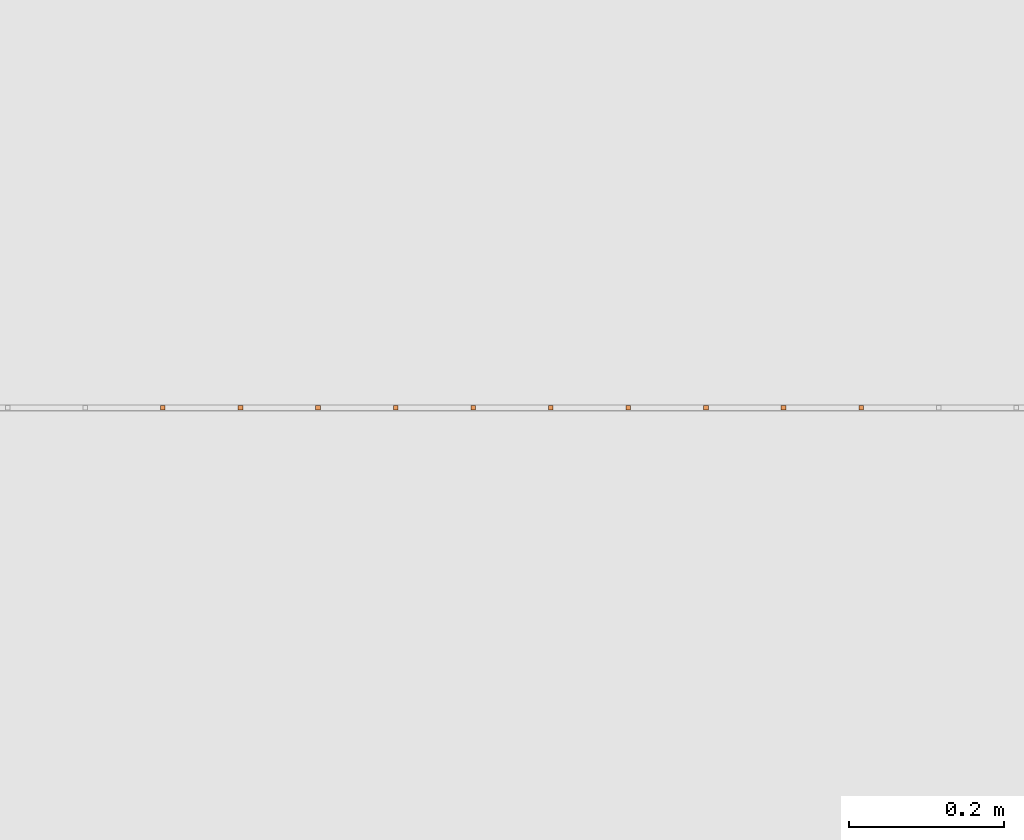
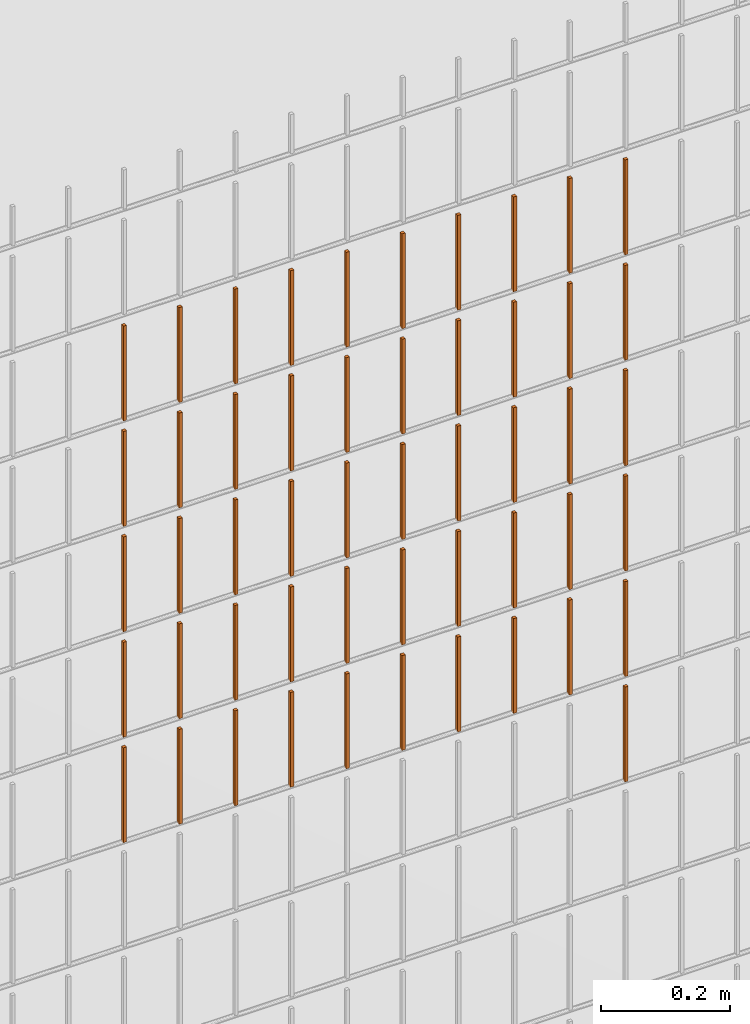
# One storey, part 240 of 1809: 51 proxies, 1 element without a shape of its own.
"""IFC2X3 building model written with IfcOpenShell, lengths in millimetres."""

from ifc_helpers import new_model, entity, si_unit, converted_unit, derived_unit, money_unit, direction, frame, origin_with_axes, place, context, subcontext, project, spatial, faceted_brep, source, transform, mapped, material, type_object, element, aggregate, save


model = new_model("IFC2X3")

# Units and contexts
model_context = context("Model", 3, precision=0.01, world=origin_with_axes(), true_north=direction((0.0, 1.0)))
body_context = subcontext(model_context, "Body", "Model", "MODEL_VIEW")
ifc_project = project(units=[si_unit("LENGTHUNIT", "METRE", prefix="MILLI"), si_unit("AREAUNIT", "SQUARE_METRE"), si_unit("VOLUMEUNIT", "CUBIC_METRE"), converted_unit("PLANEANGLEUNIT", "DEGREE", entity("IfcPlaneAngleMeasure", 0.0174532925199), si_unit("PLANEANGLEUNIT", "RADIAN"), dimensions=[0, 0, 0, 0, 0, 0, 0]), si_unit("SOLIDANGLEUNIT", "STERADIAN"), money_unit("EUR"), converted_unit("TIMEUNIT", "Year", entity("IfcTimeMeasure", 31556926.0), si_unit("TIMEUNIT", "SECOND"), dimensions=[0, 0, 1, 0, 0, 0, 0]), si_unit("MASSUNIT", "GRAM", prefix="KILO"), si_unit("THERMODYNAMICTEMPERATUREUNIT", "DEGREE_CELSIUS"), si_unit("LUMINOUSINTENSITYUNIT", "LUMEN"), si_unit("ENERGYUNIT", "JOULE", prefix="MEGA"), derived_unit("THERMALCONDUCTANCEUNIT", [(si_unit("POWERUNIT", "WATT"), 1), (si_unit("LENGTHUNIT", "METRE"), -1), (si_unit("THERMODYNAMICTEMPERATUREUNIT", "KELVIN"), -1)]), derived_unit("SPECIFICHEATCAPACITYUNIT", [(si_unit("ENERGYUNIT", "JOULE"), 1), (si_unit("MASSUNIT", "GRAM", prefix="KILO"), -1), (si_unit("THERMODYNAMICTEMPERATUREUNIT", "KELVIN"), -1)]), derived_unit("MASSDENSITYUNIT", [(si_unit("MASSUNIT", "GRAM", prefix="KILO"), 1), (si_unit("VOLUMEUNIT", "CUBIC_METRE"), -1)])], contexts=[model_context])

# Site, building, storey
site_placement = place(None, origin_with_axes())
site = spatial("IfcSite", under=ifc_project, at=site_placement, Name="Politse- ja Piirivalveameti ning Päästeameti ühishoone", CompositionType="ELEMENT")
building_placement = place(site_placement, origin_with_axes())
building = spatial("IfcBuilding", under=site, at=building_placement, Name="Politse- ja Piirivalveameti ning Päästeameti ühishoone", CompositionType="ELEMENT")
storey_placement = place(building_placement, origin_with_axes())
storey = spatial("IfcBuildingStorey", under=building, at=storey_placement, Name="Esimene korrus", CompositionType="ELEMENT", Elevation=0.0)

# Proxies
building_element_proxy_type_1 = type_object("IfcBuildingElementProxyType", Name="Railing Type", PredefinedType="NOTDEFINED")
proxy_1_placement = place(storey_placement, frame((-16775.8601056, 25156.7555964, 0.0), z_axis=(0.0, 0.0, 1.0), x_axis=(1.0, 0.0, 0.0)))
proxy_1 = element("IfcBuildingElementProxy", 1, at=proxy_1_placement, inside=storey, type_object=building_element_proxy_type_1, Name="KENNELI PIIRE")
ifc_material = material(Name="Teras - Konstruktsioon")
building_element_proxy_type_2 = type_object("IfcBuildingElementProxyType", Name="IfcBuildingElementProxy", PredefinedType="NOTDEFINED")
shared_shape_1 = source(origin_with_axes(), body_context, "Body", "Brep", [
    faceted_brep([(3.0, 3.0, 0.0), (-3.0, 3.0, 0.0), (-3.0, 3.0, 180.000012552), (3.0, 3.0, 180.000012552), (3.0, -3.0, 0.0), (-3.0, -3.0, 0.0), (-3.0, -3.0, 180.000012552), (3.0, -3.0, 180.000012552)], [[[0, 1, 2, 3]], [[0, 4, 5, 1]], [[1, 5, 6, 2]], [[3, 2, 6, 7]], [[4, 0, 3, 7]], [[5, 4, 7, 6]]]),
])
proxy_2_placement = place(proxy_1_placement, frame((-3182.26655065, -16068.8402798, 1003.99998745), z_axis=(0.0, 0.0, 1.0), x_axis=(1.0, 0.0, 0.0)))
proxy_2 = element("IfcBuildingElementProxy", 2, at=proxy_2_placement, type_object=building_element_proxy_type_2, material=ifc_material, Name="BALUSTER - 001", context=body_context, shape_type="MappedRepresentation", body=[
    mapped(shared_shape_1, transform((0.0, 0.0, 0.0), x_axis=(0.0, -1.0, 0.0), y_axis=(1.0, 0.0, 0.0), z_axis=(0.0, 0.0, 1.0))),
])
shared_shape_2 = source(origin_with_axes(), body_context, "Body", "Brep", [
    faceted_brep([(3.0, 3.0, 0.0), (-3.0, 3.0, 0.0), (-3.0, 3.0, 180.000012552), (3.0, 3.0, 180.000012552), (3.0, -3.0, 0.0), (-3.0, -3.0, 0.0), (-3.0, -3.0, 180.000012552), (3.0, -3.0, 180.000012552)], [[[0, 1, 2, 3]], [[0, 4, 5, 1]], [[1, 5, 6, 2]], [[3, 2, 6, 7]], [[4, 0, 3, 7]], [[5, 4, 7, 6]]]),
])
proxy_3_placement = place(proxy_1_placement, frame((-4082.26655065, -16068.8402798, 1403.99998745), z_axis=(0.0, 0.0, 1.0), x_axis=(1.0, 0.0, 0.0)))
proxy_3 = element("IfcBuildingElementProxy", 3, at=proxy_3_placement, type_object=building_element_proxy_type_2, material=ifc_material, Name="BALUSTER - 001", context=body_context, shape_type="MappedRepresentation", body=[
    mapped(shared_shape_2, transform((0.0, 0.0, 0.0), x_axis=(0.0, -1.0, 0.0), y_axis=(1.0, 0.0, 0.0), z_axis=(0.0, 0.0, 1.0))),
])
proxy_4_placement = place(proxy_1_placement, frame((-3982.26655065, -16068.8402798, 1403.99998745), z_axis=(0.0, 0.0, 1.0), x_axis=(1.0, 0.0, 0.0)))
proxy_4 = element("IfcBuildingElementProxy", 4, at=proxy_4_placement, type_object=building_element_proxy_type_2, material=ifc_material, Name="BALUSTER - 001", context=body_context, shape_type="MappedRepresentation", body=[
    mapped(shared_shape_2, transform((0.0, 0.0, 0.0), x_axis=(0.0, -1.0, 0.0), y_axis=(1.0, 0.0, 0.0), z_axis=(0.0, 0.0, 1.0))),
])
proxy_5_placement = place(proxy_1_placement, frame((-3882.26655065, -16068.8402798, 1403.99998745), z_axis=(0.0, 0.0, 1.0), x_axis=(1.0, 0.0, 0.0)))
proxy_5 = element("IfcBuildingElementProxy", 5, at=proxy_5_placement, type_object=building_element_proxy_type_2, material=ifc_material, Name="BALUSTER - 001", context=body_context, shape_type="MappedRepresentation", body=[
    mapped(shared_shape_2, transform((0.0, 0.0, 0.0), x_axis=(0.0, -1.0, 0.0), y_axis=(1.0, 0.0, 0.0), z_axis=(0.0, 0.0, 1.0))),
])
proxy_6_placement = place(proxy_1_placement, frame((-3782.26655065, -16068.8402798, 1403.99998745), z_axis=(0.0, 0.0, 1.0), x_axis=(1.0, 0.0, 0.0)))
proxy_6 = element("IfcBuildingElementProxy", 6, at=proxy_6_placement, type_object=building_element_proxy_type_2, material=ifc_material, Name="BALUSTER - 001", context=body_context, shape_type="MappedRepresentation", body=[
    mapped(shared_shape_2, transform((0.0, 0.0, 0.0), x_axis=(0.0, -1.0, 0.0), y_axis=(1.0, 0.0, 0.0), z_axis=(0.0, 0.0, 1.0))),
])
proxy_7_placement = place(proxy_1_placement, frame((-3682.26655065, -16068.8402798, 1403.99998745), z_axis=(0.0, 0.0, 1.0), x_axis=(1.0, 0.0, 0.0)))
proxy_7 = element("IfcBuildingElementProxy", 7, at=proxy_7_placement, type_object=building_element_proxy_type_2, material=ifc_material, Name="BALUSTER - 001", context=body_context, shape_type="MappedRepresentation", body=[
    mapped(shared_shape_2, transform((0.0, 0.0, 0.0), x_axis=(0.0, -1.0, 0.0), y_axis=(1.0, 0.0, 0.0), z_axis=(0.0, 0.0, 1.0))),
])
proxy_8_placement = place(proxy_1_placement, frame((-3582.26655065, -16068.8402798, 1403.99998745), z_axis=(0.0, 0.0, 1.0), x_axis=(1.0, 0.0, 0.0)))
proxy_8 = element("IfcBuildingElementProxy", 8, at=proxy_8_placement, type_object=building_element_proxy_type_2, material=ifc_material, Name="BALUSTER - 001", context=body_context, shape_type="MappedRepresentation", body=[
    mapped(shared_shape_2, transform((0.0, 0.0, 0.0), x_axis=(0.0, -1.0, 0.0), y_axis=(1.0, 0.0, 0.0), z_axis=(0.0, 0.0, 1.0))),
])
proxy_9_placement = place(proxy_1_placement, frame((-3482.26655065, -16068.8402798, 1403.99998745), z_axis=(0.0, 0.0, 1.0), x_axis=(1.0, 0.0, 0.0)))
proxy_9 = element("IfcBuildingElementProxy", 9, at=proxy_9_placement, type_object=building_element_proxy_type_2, material=ifc_material, Name="BALUSTER - 001", context=body_context, shape_type="MappedRepresentation", body=[
    mapped(shared_shape_2, transform((0.0, 0.0, 0.0), x_axis=(0.0, -1.0, 0.0), y_axis=(1.0, 0.0, 0.0), z_axis=(0.0, 0.0, 1.0))),
])
proxy_10_placement = place(proxy_1_placement, frame((-3382.26655065, -16068.8402798, 1403.99998745), z_axis=(0.0, 0.0, 1.0), x_axis=(1.0, 0.0, 0.0)))
proxy_10 = element("IfcBuildingElementProxy", 10, at=proxy_10_placement, type_object=building_element_proxy_type_2, material=ifc_material, Name="BALUSTER - 001", context=body_context, shape_type="MappedRepresentation", body=[
    mapped(shared_shape_2, transform((0.0, 0.0, 0.0), x_axis=(0.0, -1.0, 0.0), y_axis=(1.0, 0.0, 0.0), z_axis=(0.0, 0.0, 1.0))),
])
proxy_11_placement = place(proxy_1_placement, frame((-3282.26655065, -16068.8402798, 1403.99998745), z_axis=(0.0, 0.0, 1.0), x_axis=(1.0, 0.0, 0.0)))
proxy_11 = element("IfcBuildingElementProxy", 11, at=proxy_11_placement, type_object=building_element_proxy_type_2, material=ifc_material, Name="BALUSTER - 001", context=body_context, shape_type="MappedRepresentation", body=[
    mapped(shared_shape_2, transform((0.0, 0.0, 0.0), x_axis=(0.0, -1.0, 0.0), y_axis=(1.0, 0.0, 0.0), z_axis=(0.0, 0.0, 1.0))),
])
proxy_12_placement = place(proxy_1_placement, frame((-3182.26655065, -16068.8402798, 1403.99998745), z_axis=(0.0, 0.0, 1.0), x_axis=(1.0, 0.0, 0.0)))
proxy_12 = element("IfcBuildingElementProxy", 12, at=proxy_12_placement, type_object=building_element_proxy_type_2, material=ifc_material, Name="BALUSTER - 001", context=body_context, shape_type="MappedRepresentation", body=[
    mapped(shared_shape_2, transform((0.0, 0.0, 0.0), x_axis=(0.0, -1.0, 0.0), y_axis=(1.0, 0.0, 0.0), z_axis=(0.0, 0.0, 1.0))),
])
shared_shape_3 = source(origin_with_axes(), body_context, "Body", "Brep", [
    faceted_brep([(3.0, 3.0, 0.0), (-3.0, 3.0, 0.0), (-3.0, 3.0, 180.000012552), (3.0, 3.0, 180.000012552), (3.0, -3.0, 0.0), (-3.0, -3.0, 0.0), (-3.0, -3.0, 180.000012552), (3.0, -3.0, 180.000012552)], [[[0, 1, 2, 3]], [[0, 4, 5, 1]], [[1, 5, 6, 2]], [[3, 2, 6, 7]], [[4, 0, 3, 7]], [[5, 4, 7, 6]]]),
])
proxy_13_placement = place(proxy_1_placement, frame((-4082.26655065, -16068.8402798, 1803.99998745), z_axis=(0.0, 0.0, 1.0), x_axis=(1.0, 0.0, 0.0)))
proxy_13 = element("IfcBuildingElementProxy", 13, at=proxy_13_placement, type_object=building_element_proxy_type_2, material=ifc_material, Name="BALUSTER - 001", context=body_context, shape_type="MappedRepresentation", body=[
    mapped(shared_shape_3, transform((0.0, 0.0, 0.0), x_axis=(0.0, -1.0, 0.0), y_axis=(1.0, 0.0, 0.0), z_axis=(0.0, 0.0, 1.0))),
])
proxy_14_placement = place(proxy_1_placement, frame((-3982.26655065, -16068.8402798, 1803.99998745), z_axis=(0.0, 0.0, 1.0), x_axis=(1.0, 0.0, 0.0)))
proxy_14 = element("IfcBuildingElementProxy", 14, at=proxy_14_placement, type_object=building_element_proxy_type_2, material=ifc_material, Name="BALUSTER - 001", context=body_context, shape_type="MappedRepresentation", body=[
    mapped(shared_shape_3, transform((0.0, 0.0, 0.0), x_axis=(0.0, -1.0, 0.0), y_axis=(1.0, 0.0, 0.0), z_axis=(0.0, 0.0, 1.0))),
])
proxy_15_placement = place(proxy_1_placement, frame((-3882.26655065, -16068.8402798, 1803.99998745), z_axis=(0.0, 0.0, 1.0), x_axis=(1.0, 0.0, 0.0)))
proxy_15 = element("IfcBuildingElementProxy", 15, at=proxy_15_placement, type_object=building_element_proxy_type_2, material=ifc_material, Name="BALUSTER - 001", context=body_context, shape_type="MappedRepresentation", body=[
    mapped(shared_shape_3, transform((0.0, 0.0, 0.0), x_axis=(0.0, -1.0, 0.0), y_axis=(1.0, 0.0, 0.0), z_axis=(0.0, 0.0, 1.0))),
])
proxy_16_placement = place(proxy_1_placement, frame((-3782.26655065, -16068.8402798, 1803.99998745), z_axis=(0.0, 0.0, 1.0), x_axis=(1.0, 0.0, 0.0)))
proxy_16 = element("IfcBuildingElementProxy", 16, at=proxy_16_placement, type_object=building_element_proxy_type_2, material=ifc_material, Name="BALUSTER - 001", context=body_context, shape_type="MappedRepresentation", body=[
    mapped(shared_shape_3, transform((0.0, 0.0, 0.0), x_axis=(0.0, -1.0, 0.0), y_axis=(1.0, 0.0, 0.0), z_axis=(0.0, 0.0, 1.0))),
])
proxy_17_placement = place(proxy_1_placement, frame((-3682.26655065, -16068.8402798, 1803.99998745), z_axis=(0.0, 0.0, 1.0), x_axis=(1.0, 0.0, 0.0)))
proxy_17 = element("IfcBuildingElementProxy", 17, at=proxy_17_placement, type_object=building_element_proxy_type_2, material=ifc_material, Name="BALUSTER - 001", context=body_context, shape_type="MappedRepresentation", body=[
    mapped(shared_shape_3, transform((0.0, 0.0, 0.0), x_axis=(0.0, -1.0, 0.0), y_axis=(1.0, 0.0, 0.0), z_axis=(0.0, 0.0, 1.0))),
])
proxy_18_placement = place(proxy_1_placement, frame((-3582.26655065, -16068.8402798, 1803.99998745), z_axis=(0.0, 0.0, 1.0), x_axis=(1.0, 0.0, 0.0)))
proxy_18 = element("IfcBuildingElementProxy", 18, at=proxy_18_placement, type_object=building_element_proxy_type_2, material=ifc_material, Name="BALUSTER - 001", context=body_context, shape_type="MappedRepresentation", body=[
    mapped(shared_shape_3, transform((0.0, 0.0, 0.0), x_axis=(0.0, -1.0, 0.0), y_axis=(1.0, 0.0, 0.0), z_axis=(0.0, 0.0, 1.0))),
])
proxy_19_placement = place(proxy_1_placement, frame((-3482.26655065, -16068.8402798, 1803.99998745), z_axis=(0.0, 0.0, 1.0), x_axis=(1.0, 0.0, 0.0)))
proxy_19 = element("IfcBuildingElementProxy", 19, at=proxy_19_placement, type_object=building_element_proxy_type_2, material=ifc_material, Name="BALUSTER - 001", context=body_context, shape_type="MappedRepresentation", body=[
    mapped(shared_shape_3, transform((0.0, 0.0, 0.0), x_axis=(0.0, -1.0, 0.0), y_axis=(1.0, 0.0, 0.0), z_axis=(0.0, 0.0, 1.0))),
])
proxy_20_placement = place(proxy_1_placement, frame((-3382.26655065, -16068.8402798, 1803.99998745), z_axis=(0.0, 0.0, 1.0), x_axis=(1.0, 0.0, 0.0)))
proxy_20 = element("IfcBuildingElementProxy", 20, at=proxy_20_placement, type_object=building_element_proxy_type_2, material=ifc_material, Name="BALUSTER - 001", context=body_context, shape_type="MappedRepresentation", body=[
    mapped(shared_shape_3, transform((0.0, 0.0, 0.0), x_axis=(0.0, -1.0, 0.0), y_axis=(1.0, 0.0, 0.0), z_axis=(0.0, 0.0, 1.0))),
])
proxy_21_placement = place(proxy_1_placement, frame((-3282.26655065, -16068.8402798, 1803.99998745), z_axis=(0.0, 0.0, 1.0), x_axis=(1.0, 0.0, 0.0)))
proxy_21 = element("IfcBuildingElementProxy", 21, at=proxy_21_placement, type_object=building_element_proxy_type_2, material=ifc_material, Name="BALUSTER - 001", context=body_context, shape_type="MappedRepresentation", body=[
    mapped(shared_shape_3, transform((0.0, 0.0, 0.0), x_axis=(0.0, -1.0, 0.0), y_axis=(1.0, 0.0, 0.0), z_axis=(0.0, 0.0, 1.0))),
])
proxy_22_placement = place(proxy_1_placement, frame((-3182.26655065, -16068.8402798, 1803.99998745), z_axis=(0.0, 0.0, 1.0), x_axis=(1.0, 0.0, 0.0)))
proxy_22 = element("IfcBuildingElementProxy", 22, at=proxy_22_placement, type_object=building_element_proxy_type_2, material=ifc_material, Name="BALUSTER - 001", context=body_context, shape_type="MappedRepresentation", body=[
    mapped(shared_shape_3, transform((0.0, 0.0, 0.0), x_axis=(0.0, -1.0, 0.0), y_axis=(1.0, 0.0, 0.0), z_axis=(0.0, 0.0, 1.0))),
])
shared_shape_4 = source(origin_with_axes(), body_context, "Body", "Brep", [
    faceted_brep([(3.0, 3.0, 0.0), (-3.0, 3.0, 0.0), (-3.0, 3.0, 180.000012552), (3.0, 3.0, 180.000012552), (3.0, -3.0, 0.0), (-3.0, -3.0, 0.0), (-3.0, -3.0, 180.000012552), (3.0, -3.0, 180.000012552)], [[[0, 1, 2, 3]], [[0, 4, 5, 1]], [[1, 5, 6, 2]], [[3, 2, 6, 7]], [[4, 0, 3, 7]], [[5, 4, 7, 6]]]),
])
proxy_23_placement = place(proxy_1_placement, frame((-4082.26655065, -16068.8402798, 2003.99998745), z_axis=(0.0, 0.0, 1.0), x_axis=(1.0, 0.0, 0.0)))
proxy_23 = element("IfcBuildingElementProxy", 23, at=proxy_23_placement, type_object=building_element_proxy_type_2, material=ifc_material, Name="BALUSTER - 001", context=body_context, shape_type="MappedRepresentation", body=[
    mapped(shared_shape_4, transform((0.0, 0.0, 0.0), x_axis=(0.0, -1.0, 0.0), y_axis=(1.0, 0.0, 0.0), z_axis=(0.0, 0.0, 1.0))),
])
proxy_24_placement = place(proxy_1_placement, frame((-3982.26655065, -16068.8402798, 2003.99998745), z_axis=(0.0, 0.0, 1.0), x_axis=(1.0, 0.0, 0.0)))
proxy_24 = element("IfcBuildingElementProxy", 24, at=proxy_24_placement, type_object=building_element_proxy_type_2, material=ifc_material, Name="BALUSTER - 001", context=body_context, shape_type="MappedRepresentation", body=[
    mapped(shared_shape_4, transform((0.0, 0.0, 0.0), x_axis=(0.0, -1.0, 0.0), y_axis=(1.0, 0.0, 0.0), z_axis=(0.0, 0.0, 1.0))),
])
proxy_25_placement = place(proxy_1_placement, frame((-3882.26655065, -16068.8402798, 2003.99998745), z_axis=(0.0, 0.0, 1.0), x_axis=(1.0, 0.0, 0.0)))
proxy_25 = element("IfcBuildingElementProxy", 25, at=proxy_25_placement, type_object=building_element_proxy_type_2, material=ifc_material, Name="BALUSTER - 001", context=body_context, shape_type="MappedRepresentation", body=[
    mapped(shared_shape_4, transform((0.0, 0.0, 0.0), x_axis=(0.0, -1.0, 0.0), y_axis=(1.0, 0.0, 0.0), z_axis=(0.0, 0.0, 1.0))),
])
proxy_26_placement = place(proxy_1_placement, frame((-3782.26655065, -16068.8402798, 2003.99998745), z_axis=(0.0, 0.0, 1.0), x_axis=(1.0, 0.0, 0.0)))
proxy_26 = element("IfcBuildingElementProxy", 26, at=proxy_26_placement, type_object=building_element_proxy_type_2, material=ifc_material, Name="BALUSTER - 001", context=body_context, shape_type="MappedRepresentation", body=[
    mapped(shared_shape_4, transform((0.0, 0.0, 0.0), x_axis=(0.0, -1.0, 0.0), y_axis=(1.0, 0.0, 0.0), z_axis=(0.0, 0.0, 1.0))),
])
proxy_27_placement = place(proxy_1_placement, frame((-3682.26655065, -16068.8402798, 2003.99998745), z_axis=(0.0, 0.0, 1.0), x_axis=(1.0, 0.0, 0.0)))
proxy_27 = element("IfcBuildingElementProxy", 27, at=proxy_27_placement, type_object=building_element_proxy_type_2, material=ifc_material, Name="BALUSTER - 001", context=body_context, shape_type="MappedRepresentation", body=[
    mapped(shared_shape_4, transform((0.0, 0.0, 0.0), x_axis=(0.0, -1.0, 0.0), y_axis=(1.0, 0.0, 0.0), z_axis=(0.0, 0.0, 1.0))),
])
proxy_28_placement = place(proxy_1_placement, frame((-3582.26655065, -16068.8402798, 2003.99998745), z_axis=(0.0, 0.0, 1.0), x_axis=(1.0, 0.0, 0.0)))
proxy_28 = element("IfcBuildingElementProxy", 28, at=proxy_28_placement, type_object=building_element_proxy_type_2, material=ifc_material, Name="BALUSTER - 001", context=body_context, shape_type="MappedRepresentation", body=[
    mapped(shared_shape_4, transform((0.0, 0.0, 0.0), x_axis=(0.0, -1.0, 0.0), y_axis=(1.0, 0.0, 0.0), z_axis=(0.0, 0.0, 1.0))),
])
proxy_29_placement = place(proxy_1_placement, frame((-3482.26655065, -16068.8402798, 2003.99998745), z_axis=(0.0, 0.0, 1.0), x_axis=(1.0, 0.0, 0.0)))
proxy_29 = element("IfcBuildingElementProxy", 29, at=proxy_29_placement, type_object=building_element_proxy_type_2, material=ifc_material, Name="BALUSTER - 001", context=body_context, shape_type="MappedRepresentation", body=[
    mapped(shared_shape_4, transform((0.0, 0.0, 0.0), x_axis=(0.0, -1.0, 0.0), y_axis=(1.0, 0.0, 0.0), z_axis=(0.0, 0.0, 1.0))),
])
proxy_30_placement = place(proxy_1_placement, frame((-3382.26655065, -16068.8402798, 2003.99998745), z_axis=(0.0, 0.0, 1.0), x_axis=(1.0, 0.0, 0.0)))
proxy_30 = element("IfcBuildingElementProxy", 30, at=proxy_30_placement, type_object=building_element_proxy_type_2, material=ifc_material, Name="BALUSTER - 001", context=body_context, shape_type="MappedRepresentation", body=[
    mapped(shared_shape_4, transform((0.0, 0.0, 0.0), x_axis=(0.0, -1.0, 0.0), y_axis=(1.0, 0.0, 0.0), z_axis=(0.0, 0.0, 1.0))),
])
proxy_31_placement = place(proxy_1_placement, frame((-3282.26655065, -16068.8402798, 2003.99998745), z_axis=(0.0, 0.0, 1.0), x_axis=(1.0, 0.0, 0.0)))
proxy_31 = element("IfcBuildingElementProxy", 31, at=proxy_31_placement, type_object=building_element_proxy_type_2, material=ifc_material, Name="BALUSTER - 001", context=body_context, shape_type="MappedRepresentation", body=[
    mapped(shared_shape_4, transform((0.0, 0.0, 0.0), x_axis=(0.0, -1.0, 0.0), y_axis=(1.0, 0.0, 0.0), z_axis=(0.0, 0.0, 1.0))),
])
proxy_32_placement = place(proxy_1_placement, frame((-3182.26655065, -16068.8402798, 2003.99998745), z_axis=(0.0, 0.0, 1.0), x_axis=(1.0, 0.0, 0.0)))
proxy_32 = element("IfcBuildingElementProxy", 32, at=proxy_32_placement, type_object=building_element_proxy_type_2, material=ifc_material, Name="BALUSTER - 001", context=body_context, shape_type="MappedRepresentation", body=[
    mapped(shared_shape_4, transform((0.0, 0.0, 0.0), x_axis=(0.0, -1.0, 0.0), y_axis=(1.0, 0.0, 0.0), z_axis=(0.0, 0.0, 1.0))),
])
shared_shape_5 = source(origin_with_axes(), body_context, "Body", "Brep", [
    faceted_brep([(3.0, 3.0, 0.0), (-3.0, 3.0, 0.0), (-3.0, 3.0, 180.000012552), (3.0, 3.0, 180.000012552), (3.0, -3.0, 0.0), (-3.0, -3.0, 0.0), (-3.0, -3.0, 180.000012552), (3.0, -3.0, 180.000012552)], [[[0, 1, 2, 3]], [[0, 4, 5, 1]], [[1, 5, 6, 2]], [[3, 2, 6, 7]], [[4, 0, 3, 7]], [[5, 4, 7, 6]]]),
])
proxy_33_placement = place(proxy_1_placement, frame((-4082.26655065, -16068.8402798, 1203.99998745), z_axis=(0.0, 0.0, 1.0), x_axis=(1.0, 0.0, 0.0)))
proxy_33 = element("IfcBuildingElementProxy", 33, at=proxy_33_placement, type_object=building_element_proxy_type_2, material=ifc_material, Name="BALUSTER - 001", context=body_context, shape_type="MappedRepresentation", body=[
    mapped(shared_shape_5, transform((0.0, 0.0, 0.0), x_axis=(0.0, -1.0, 0.0), y_axis=(1.0, 0.0, 0.0), z_axis=(0.0, 0.0, 1.0))),
])
proxy_34_placement = place(proxy_1_placement, frame((-3982.26655065, -16068.8402798, 1203.99998745), z_axis=(0.0, 0.0, 1.0), x_axis=(1.0, 0.0, 0.0)))
proxy_34 = element("IfcBuildingElementProxy", 34, at=proxy_34_placement, type_object=building_element_proxy_type_2, material=ifc_material, Name="BALUSTER - 001", context=body_context, shape_type="MappedRepresentation", body=[
    mapped(shared_shape_5, transform((0.0, 0.0, 0.0), x_axis=(0.0, -1.0, 0.0), y_axis=(1.0, 0.0, 0.0), z_axis=(0.0, 0.0, 1.0))),
])
proxy_35_placement = place(proxy_1_placement, frame((-3882.26655065, -16068.8402798, 1203.99998745), z_axis=(0.0, 0.0, 1.0), x_axis=(1.0, 0.0, 0.0)))
proxy_35 = element("IfcBuildingElementProxy", 35, at=proxy_35_placement, type_object=building_element_proxy_type_2, material=ifc_material, Name="BALUSTER - 001", context=body_context, shape_type="MappedRepresentation", body=[
    mapped(shared_shape_5, transform((0.0, 0.0, 0.0), x_axis=(0.0, -1.0, 0.0), y_axis=(1.0, 0.0, 0.0), z_axis=(0.0, 0.0, 1.0))),
])
proxy_36_placement = place(proxy_1_placement, frame((-3782.26655065, -16068.8402798, 1203.99998745), z_axis=(0.0, 0.0, 1.0), x_axis=(1.0, 0.0, 0.0)))
proxy_36 = element("IfcBuildingElementProxy", 36, at=proxy_36_placement, type_object=building_element_proxy_type_2, material=ifc_material, Name="BALUSTER - 001", context=body_context, shape_type="MappedRepresentation", body=[
    mapped(shared_shape_5, transform((0.0, 0.0, 0.0), x_axis=(0.0, -1.0, 0.0), y_axis=(1.0, 0.0, 0.0), z_axis=(0.0, 0.0, 1.0))),
])
proxy_37_placement = place(proxy_1_placement, frame((-3682.26655065, -16068.8402798, 1203.99998745), z_axis=(0.0, 0.0, 1.0), x_axis=(1.0, 0.0, 0.0)))
proxy_37 = element("IfcBuildingElementProxy", 37, at=proxy_37_placement, type_object=building_element_proxy_type_2, material=ifc_material, Name="BALUSTER - 001", context=body_context, shape_type="MappedRepresentation", body=[
    mapped(shared_shape_5, transform((0.0, 0.0, 0.0), x_axis=(0.0, -1.0, 0.0), y_axis=(1.0, 0.0, 0.0), z_axis=(0.0, 0.0, 1.0))),
])
proxy_38_placement = place(proxy_1_placement, frame((-3582.26655065, -16068.8402798, 1203.99998745), z_axis=(0.0, 0.0, 1.0), x_axis=(1.0, 0.0, 0.0)))
proxy_38 = element("IfcBuildingElementProxy", 38, at=proxy_38_placement, type_object=building_element_proxy_type_2, material=ifc_material, Name="BALUSTER - 001", context=body_context, shape_type="MappedRepresentation", body=[
    mapped(shared_shape_5, transform((0.0, 0.0, 0.0), x_axis=(0.0, -1.0, 0.0), y_axis=(1.0, 0.0, 0.0), z_axis=(0.0, 0.0, 1.0))),
])
proxy_39_placement = place(proxy_1_placement, frame((-3482.26655065, -16068.8402798, 1203.99998745), z_axis=(0.0, 0.0, 1.0), x_axis=(1.0, 0.0, 0.0)))
proxy_39 = element("IfcBuildingElementProxy", 39, at=proxy_39_placement, type_object=building_element_proxy_type_2, material=ifc_material, Name="BALUSTER - 001", context=body_context, shape_type="MappedRepresentation", body=[
    mapped(shared_shape_5, transform((0.0, 0.0, 0.0), x_axis=(0.0, -1.0, 0.0), y_axis=(1.0, 0.0, 0.0), z_axis=(0.0, 0.0, 1.0))),
])
proxy_40_placement = place(proxy_1_placement, frame((-3382.26655065, -16068.8402798, 1203.99998745), z_axis=(0.0, 0.0, 1.0), x_axis=(1.0, 0.0, 0.0)))
proxy_40 = element("IfcBuildingElementProxy", 40, at=proxy_40_placement, type_object=building_element_proxy_type_2, material=ifc_material, Name="BALUSTER - 001", context=body_context, shape_type="MappedRepresentation", body=[
    mapped(shared_shape_5, transform((0.0, 0.0, 0.0), x_axis=(0.0, -1.0, 0.0), y_axis=(1.0, 0.0, 0.0), z_axis=(0.0, 0.0, 1.0))),
])
proxy_41_placement = place(proxy_1_placement, frame((-3282.26655065, -16068.8402798, 1203.99998745), z_axis=(0.0, 0.0, 1.0), x_axis=(1.0, 0.0, 0.0)))
proxy_41 = element("IfcBuildingElementProxy", 41, at=proxy_41_placement, type_object=building_element_proxy_type_2, material=ifc_material, Name="BALUSTER - 001", context=body_context, shape_type="MappedRepresentation", body=[
    mapped(shared_shape_5, transform((0.0, 0.0, 0.0), x_axis=(0.0, -1.0, 0.0), y_axis=(1.0, 0.0, 0.0), z_axis=(0.0, 0.0, 1.0))),
])
proxy_42_placement = place(proxy_1_placement, frame((-3182.26655065, -16068.8402798, 1203.99998745), z_axis=(0.0, 0.0, 1.0), x_axis=(1.0, 0.0, 0.0)))
proxy_42 = element("IfcBuildingElementProxy", 42, at=proxy_42_placement, type_object=building_element_proxy_type_2, material=ifc_material, Name="BALUSTER - 001", context=body_context, shape_type="MappedRepresentation", body=[
    mapped(shared_shape_5, transform((0.0, 0.0, 0.0), x_axis=(0.0, -1.0, 0.0), y_axis=(1.0, 0.0, 0.0), z_axis=(0.0, 0.0, 1.0))),
])
shared_shape_6 = source(origin_with_axes(), body_context, "Body", "Brep", [
    faceted_brep([(3.0, 3.0, 0.0), (-3.0, 3.0, 0.0), (-3.0, 3.0, 180.000012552), (3.0, 3.0, 180.000012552), (3.0, -3.0, 0.0), (-3.0, -3.0, 0.0), (-3.0, -3.0, 180.000012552), (3.0, -3.0, 180.000012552)], [[[0, 1, 2, 3]], [[0, 4, 5, 1]], [[1, 5, 6, 2]], [[3, 2, 6, 7]], [[4, 0, 3, 7]], [[5, 4, 7, 6]]]),
])
proxy_43_placement = place(proxy_1_placement, frame((-4082.26655065, -16068.8402798, 1603.99998745), z_axis=(0.0, 0.0, 1.0), x_axis=(1.0, 0.0, 0.0)))
proxy_43 = element("IfcBuildingElementProxy", 43, at=proxy_43_placement, type_object=building_element_proxy_type_2, material=ifc_material, Name="BALUSTER - 001", context=body_context, shape_type="MappedRepresentation", body=[
    mapped(shared_shape_6, transform((0.0, 0.0, 0.0), x_axis=(0.0, -1.0, 0.0), y_axis=(1.0, 0.0, 0.0), z_axis=(0.0, 0.0, 1.0))),
])
proxy_44_placement = place(proxy_1_placement, frame((-3982.26655065, -16068.8402798, 1603.99998745), z_axis=(0.0, 0.0, 1.0), x_axis=(1.0, 0.0, 0.0)))
proxy_44 = element("IfcBuildingElementProxy", 44, at=proxy_44_placement, type_object=building_element_proxy_type_2, material=ifc_material, Name="BALUSTER - 001", context=body_context, shape_type="MappedRepresentation", body=[
    mapped(shared_shape_6, transform((0.0, 0.0, 0.0), x_axis=(0.0, -1.0, 0.0), y_axis=(1.0, 0.0, 0.0), z_axis=(0.0, 0.0, 1.0))),
])
proxy_45_placement = place(proxy_1_placement, frame((-3882.26655065, -16068.8402798, 1603.99998745), z_axis=(0.0, 0.0, 1.0), x_axis=(1.0, 0.0, 0.0)))
proxy_45 = element("IfcBuildingElementProxy", 45, at=proxy_45_placement, type_object=building_element_proxy_type_2, material=ifc_material, Name="BALUSTER - 001", context=body_context, shape_type="MappedRepresentation", body=[
    mapped(shared_shape_6, transform((0.0, 0.0, 0.0), x_axis=(0.0, -1.0, 0.0), y_axis=(1.0, 0.0, 0.0), z_axis=(0.0, 0.0, 1.0))),
])
proxy_46_placement = place(proxy_1_placement, frame((-3782.26655065, -16068.8402798, 1603.99998745), z_axis=(0.0, 0.0, 1.0), x_axis=(1.0, 0.0, 0.0)))
proxy_46 = element("IfcBuildingElementProxy", 46, at=proxy_46_placement, type_object=building_element_proxy_type_2, material=ifc_material, Name="BALUSTER - 001", context=body_context, shape_type="MappedRepresentation", body=[
    mapped(shared_shape_6, transform((0.0, 0.0, 0.0), x_axis=(0.0, -1.0, 0.0), y_axis=(1.0, 0.0, 0.0), z_axis=(0.0, 0.0, 1.0))),
])
proxy_47_placement = place(proxy_1_placement, frame((-3682.26655065, -16068.8402798, 1603.99998745), z_axis=(0.0, 0.0, 1.0), x_axis=(1.0, 0.0, 0.0)))
proxy_47 = element("IfcBuildingElementProxy", 47, at=proxy_47_placement, type_object=building_element_proxy_type_2, material=ifc_material, Name="BALUSTER - 001", context=body_context, shape_type="MappedRepresentation", body=[
    mapped(shared_shape_6, transform((0.0, 0.0, 0.0), x_axis=(0.0, -1.0, 0.0), y_axis=(1.0, 0.0, 0.0), z_axis=(0.0, 0.0, 1.0))),
])
proxy_48_placement = place(proxy_1_placement, frame((-3582.26655065, -16068.8402798, 1603.99998745), z_axis=(0.0, 0.0, 1.0), x_axis=(1.0, 0.0, 0.0)))
proxy_48 = element("IfcBuildingElementProxy", 48, at=proxy_48_placement, type_object=building_element_proxy_type_2, material=ifc_material, Name="BALUSTER - 001", context=body_context, shape_type="MappedRepresentation", body=[
    mapped(shared_shape_6, transform((0.0, 0.0, 0.0), x_axis=(0.0, -1.0, 0.0), y_axis=(1.0, 0.0, 0.0), z_axis=(0.0, 0.0, 1.0))),
])
proxy_49_placement = place(proxy_1_placement, frame((-3482.26655065, -16068.8402798, 1603.99998745), z_axis=(0.0, 0.0, 1.0), x_axis=(1.0, 0.0, 0.0)))
proxy_49 = element("IfcBuildingElementProxy", 49, at=proxy_49_placement, type_object=building_element_proxy_type_2, material=ifc_material, Name="BALUSTER - 001", context=body_context, shape_type="MappedRepresentation", body=[
    mapped(shared_shape_6, transform((0.0, 0.0, 0.0), x_axis=(0.0, -1.0, 0.0), y_axis=(1.0, 0.0, 0.0), z_axis=(0.0, 0.0, 1.0))),
])
proxy_50_placement = place(proxy_1_placement, frame((-3382.26655065, -16068.8402798, 1603.99998745), z_axis=(0.0, 0.0, 1.0), x_axis=(1.0, 0.0, 0.0)))
proxy_50 = element("IfcBuildingElementProxy", 50, at=proxy_50_placement, type_object=building_element_proxy_type_2, material=ifc_material, Name="BALUSTER - 001", context=body_context, shape_type="MappedRepresentation", body=[
    mapped(shared_shape_6, transform((0.0, 0.0, 0.0), x_axis=(0.0, -1.0, 0.0), y_axis=(1.0, 0.0, 0.0), z_axis=(0.0, 0.0, 1.0))),
])
proxy_51_placement = place(proxy_1_placement, frame((-3282.26655065, -16068.8402798, 1603.99998745), z_axis=(0.0, 0.0, 1.0), x_axis=(1.0, 0.0, 0.0)))
proxy_51 = element("IfcBuildingElementProxy", 51, at=proxy_51_placement, type_object=building_element_proxy_type_2, material=ifc_material, Name="BALUSTER - 001", context=body_context, shape_type="MappedRepresentation", body=[
    mapped(shared_shape_6, transform((0.0, 0.0, 0.0), x_axis=(0.0, -1.0, 0.0), y_axis=(1.0, 0.0, 0.0), z_axis=(0.0, 0.0, 1.0))),
])
proxy_52_placement = place(proxy_1_placement, frame((-3182.26655065, -16068.8402798, 1603.99998745), z_axis=(0.0, 0.0, 1.0), x_axis=(1.0, 0.0, 0.0)))
proxy_52 = element("IfcBuildingElementProxy", 52, at=proxy_52_placement, type_object=building_element_proxy_type_2, material=ifc_material, Name="BALUSTER - 001", context=body_context, shape_type="MappedRepresentation", body=[
    mapped(shared_shape_6, transform((0.0, 0.0, 0.0), x_axis=(0.0, -1.0, 0.0), y_axis=(1.0, 0.0, 0.0), z_axis=(0.0, 0.0, 1.0))),
])
aggregate(proxy_1, [proxy_2, proxy_33, proxy_34, proxy_35, proxy_36, proxy_37, proxy_38, proxy_39, proxy_40, proxy_41, proxy_42, proxy_3, proxy_4, proxy_5, proxy_6, proxy_7, proxy_8, proxy_9, proxy_10, proxy_11, proxy_12, proxy_43, proxy_44, proxy_45, proxy_46, proxy_47, proxy_48, proxy_49, proxy_50, proxy_51, proxy_52, proxy_13, proxy_14, proxy_15, proxy_16, proxy_17, proxy_18, proxy_19, proxy_20, proxy_21, proxy_22, proxy_23, proxy_24, proxy_25, proxy_26, proxy_27, proxy_28, proxy_29, proxy_30, proxy_31, proxy_32])

save(model, "model.ifc")
